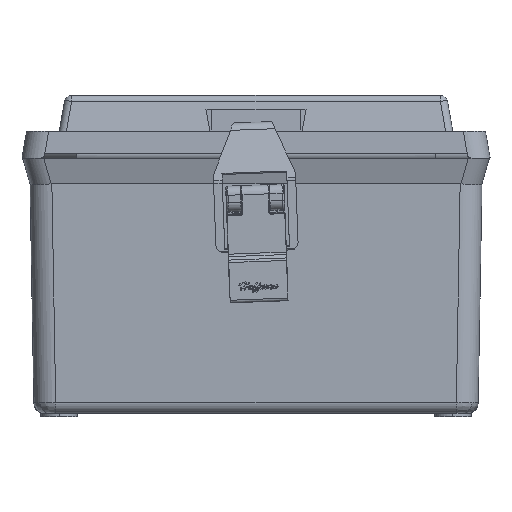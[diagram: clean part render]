
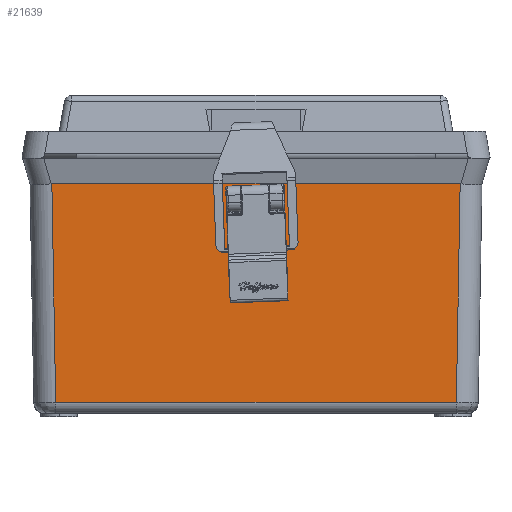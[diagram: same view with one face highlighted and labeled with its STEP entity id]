
A CAD part, left-side view. The second image highlights one B-rep face of the part: STEP entity #21639.
In plain terms, the highlighted planar face has unit normal (-1, 0, -0.018) as drawn and (0, -0.017, -1) by its records, which use the part's own axes.
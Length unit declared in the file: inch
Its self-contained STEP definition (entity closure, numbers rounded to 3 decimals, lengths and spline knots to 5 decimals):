
#389 = CARTESIAN_POINT ( 'NONE',  ( -3.50017, -0.43346, -3.12511 ) ) ;
#849 = VERTEX_POINT ( 'NONE', #23502 ) ;
#1286 = EDGE_CURVE ( 'NONE', #849, #33787, #28481, .T. ) ;
#2258 = VECTOR ( 'NONE', #37606, 39.37008 ) ;
#3042 = ORIENTED_EDGE ( 'NONE', *, *, #29538, .T. ) ;
#3615 = DIRECTION ( 'NONE',  ( 0., -0.017, -1. ) ) ;
#4221 = LINE ( 'NONE', #9222, #27043 ) ;
#4546 = FACE_BOUND ( 'NONE', #30204, .T. ) ;
#6017 = EDGE_CURVE ( 'NONE', #51530, #32782, #18729, .T. ) ;
#6210 = EDGE_LOOP ( 'NONE', ( #37267, #29575, #47059, #58086 ) ) ;
#7340 = CARTESIAN_POINT ( 'NONE',  ( -3.50005, -0.44, -3.12499 ) ) ;
#9222 = CARTESIAN_POINT ( 'NONE',  ( 3.49781, -0.56865, -3.12275 ) ) ;
#10136 = VERTEX_POINT ( 'NONE', #35870 ) ;
#10717 = CARTESIAN_POINT ( 'NONE',  ( 0.125, -1.025, -3.11478 ) ) ;
#10737 = CARTESIAN_POINT ( 'NONE',  ( 0.125, -1.275, -3.11042 ) ) ;
#14179 = EDGE_LOOP ( 'NONE', ( #48590, #3042 ) ) ;
#14446 = AXIS2_PLACEMENT_3D ( 'NONE', #26924, #3615, #26725 ) ;
#14717 = CARTESIAN_POINT ( 'NONE',  ( -0.125, -0.775, -3.11915 ) ) ;
#16794 = CARTESIAN_POINT ( 'NONE',  ( 0.125, -1.525, -3.10606 ) ) ;
#17746 = ORIENTED_EDGE ( 'NONE', *, *, #1286, .T. ) ;
#18384 = DIRECTION ( 'NONE',  ( -0.017, -1., 0.017 ) ) ;
#18729 = LINE ( 'NONE', #49460, #38119 ) ;
#18885 = CARTESIAN_POINT ( 'NONE',  ( 3.43462, -4.18832, -3.05957 ) ) ;
#18898 = DIRECTION ( 'NONE',  ( -0.017, 1., -0.017 ) ) ;
#19917 = CARTESIAN_POINT ( 'NONE',  ( 0.125, -1.275, -3.11042 ) ) ;
#19920 = CARTESIAN_POINT ( 'NONE',  ( 0.125, -1.025, -3.11478 ) ) ;
#20404 = LINE ( 'NONE', #389, #54135 ) ;
#21639 = ADVANCED_FACE ( 'NONE', ( #40298, #4546, #51741 ), #44771, .T. ) ;
#23502 = CARTESIAN_POINT ( 'NONE',  ( -0.125, -1.025, -3.11478 ) ) ;
#23599 = ORIENTED_EDGE ( 'NONE', *, *, #25240, .T. ) ;
#24258 = EDGE_CURVE ( 'NONE', #10136, #26589, #39408, .T. ) ;
#24482 = CARTESIAN_POINT ( 'NONE',  ( 0.125, -1.775, -3.10169 ) ) ;
#24560 = CARTESIAN_POINT ( 'NONE',  ( -0.125, -1.275, -3.11042 ) ) ;
#24973 = CARTESIAN_POINT ( 'NONE',  ( -0.125, -1.525, -3.10606 ) ) ;
#25240 = EDGE_CURVE ( 'NONE', #33787, #849, #49511, .T. ) ;
#26589 = VERTEX_POINT ( 'NONE', #7340 ) ;
#26725 = DIRECTION ( 'NONE',  ( 0., 1., -0.017 ) ) ;
#26924 = CARTESIAN_POINT ( 'NONE',  ( -3.87499, -0.44, -3.12499 ) ) ;
#27043 = VECTOR ( 'NONE', #18384, 39.37008 ) ;
#27691 = EDGE_CURVE ( 'NONE', #43550, #38912, #52063, .T. ) ;
#28481 =( BOUNDED_CURVE ( )  B_SPLINE_CURVE ( 3, ( #56773, #24560, #10737, #19920 ),
 .UNSPECIFIED., .F., .T. ) 
 B_SPLINE_CURVE_WITH_KNOTS ( ( 4, 4 ),
 ( 4.71239, 7.85398 ),
 .UNSPECIFIED. ) 
 CURVE ( )  GEOMETRIC_REPRESENTATION_ITEM ( )  RATIONAL_B_SPLINE_CURVE ( ( 1., 0.333, 0.333, 1. ) ) 
 REPRESENTATION_ITEM ( '' )  );
#28767 = CARTESIAN_POINT ( 'NONE',  ( -4., -0.44, -3.12499 ) ) ;
#29538 = EDGE_CURVE ( 'NONE', #38912, #43550, #47679, .T. ) ;
#29575 = ORIENTED_EDGE ( 'NONE', *, *, #57048, .T. ) ;
#30204 = EDGE_LOOP ( 'NONE', ( #23599, #17746 ) ) ;
#31714 = EDGE_CURVE ( 'NONE', #10136, #51530, #4221, .T. ) ;
#32782 = VERTEX_POINT ( 'NONE', #56649 ) ;
#33787 = VERTEX_POINT ( 'NONE', #37050 ) ;
#33913 = CARTESIAN_POINT ( 'NONE',  ( -0.125, -1.525, -3.10606 ) ) ;
#35870 = CARTESIAN_POINT ( 'NONE',  ( 3.50005, -0.44, -3.12499 ) ) ;
#37050 = CARTESIAN_POINT ( 'NONE',  ( 0.125, -1.025, -3.11478 ) ) ;
#37267 = ORIENTED_EDGE ( 'NONE', *, *, #6017, .T. ) ;
#37606 = DIRECTION ( 'NONE',  ( -1., 0., 0. ) ) ;
#38119 = VECTOR ( 'NONE', #55026, 39.37008 ) ;
#38912 = VERTEX_POINT ( 'NONE', #57836 ) ;
#39408 = LINE ( 'NONE', #28767, #2258 ) ;
#40298 = FACE_BOUND ( 'NONE', #14179, .T. ) ;
#42361 = CARTESIAN_POINT ( 'NONE',  ( 0.125, -0.775, -3.11915 ) ) ;
#43550 = VERTEX_POINT ( 'NONE', #16794 ) ;
#44771 = PLANE ( 'NONE',  #14446 ) ;
#47059 = ORIENTED_EDGE ( 'NONE', *, *, #24258, .F. ) ;
#47352 = CARTESIAN_POINT ( 'NONE',  ( -0.125, -1.775, -3.10169 ) ) ;
#47405 = CARTESIAN_POINT ( 'NONE',  ( -0.125, -1.025, -3.11478 ) ) ;
#47432 = CARTESIAN_POINT ( 'NONE',  ( 0.125, -1.525, -3.10606 ) ) ;
#47679 =( BOUNDED_CURVE ( )  B_SPLINE_CURVE ( 3, ( #33913, #47352, #24482, #56508 ),
 .UNSPECIFIED., .F., .T. ) 
 B_SPLINE_CURVE_WITH_KNOTS ( ( 4, 4 ),
 ( 4.71239, 7.85398 ),
 .UNSPECIFIED. ) 
 CURVE ( )  GEOMETRIC_REPRESENTATION_ITEM ( )  RATIONAL_B_SPLINE_CURVE ( ( 1., 0.333, 0.333, 1. ) ) 
 REPRESENTATION_ITEM ( '' )  );
#48590 = ORIENTED_EDGE ( 'NONE', *, *, #27691, .T. ) ;
#49460 = CARTESIAN_POINT ( 'NONE',  ( -3.80631, -4.18832, -3.05957 ) ) ;
#49511 =( BOUNDED_CURVE ( )  B_SPLINE_CURVE ( 3, ( #10717, #42361, #14717, #47405 ),
 .UNSPECIFIED., .F., .F. ) 
 B_SPLINE_CURVE_WITH_KNOTS ( ( 4, 4 ),
 ( 1.5708, 4.71239 ),
 .UNSPECIFIED. ) 
 CURVE ( )  GEOMETRIC_REPRESENTATION_ITEM ( )  RATIONAL_B_SPLINE_CURVE ( ( 1., 0.333, 0.333, 1. ) ) 
 REPRESENTATION_ITEM ( '' )  );
#51530 = VERTEX_POINT ( 'NONE', #18885 ) ;
#51741 = FACE_OUTER_BOUND ( 'NONE', #6210, .T. ) ;
#52007 = CARTESIAN_POINT ( 'NONE',  ( -0.125, -1.275, -3.11042 ) ) ;
#52063 =( BOUNDED_CURVE ( )  B_SPLINE_CURVE ( 3, ( #47432, #19917, #52007, #24973 ),
 .UNSPECIFIED., .F., .F. ) 
 B_SPLINE_CURVE_WITH_KNOTS ( ( 4, 4 ),
 ( 1.5708, 4.71239 ),
 .UNSPECIFIED. ) 
 CURVE ( )  GEOMETRIC_REPRESENTATION_ITEM ( )  RATIONAL_B_SPLINE_CURVE ( ( 1., 0.333, 0.333, 1. ) ) 
 REPRESENTATION_ITEM ( '' )  );
#54135 = VECTOR ( 'NONE', #18898, 39.37008 ) ;
#55026 = DIRECTION ( 'NONE',  ( -1., 0., 0. ) ) ;
#56508 = CARTESIAN_POINT ( 'NONE',  ( 0.125, -1.525, -3.10606 ) ) ;
#56649 = CARTESIAN_POINT ( 'NONE',  ( -3.43462, -4.18832, -3.05957 ) ) ;
#56773 = CARTESIAN_POINT ( 'NONE',  ( -0.125, -1.025, -3.11478 ) ) ;
#57048 = EDGE_CURVE ( 'NONE', #32782, #26589, #20404, .T. ) ;
#57836 = CARTESIAN_POINT ( 'NONE',  ( -0.125, -1.525, -3.10606 ) ) ;
#58086 = ORIENTED_EDGE ( 'NONE', *, *, #31714, .T. ) ;
